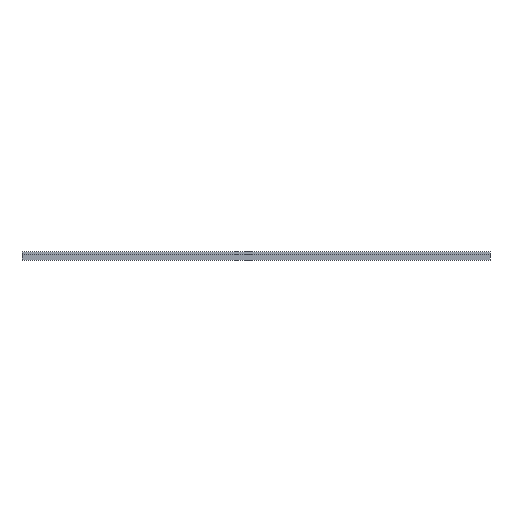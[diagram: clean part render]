
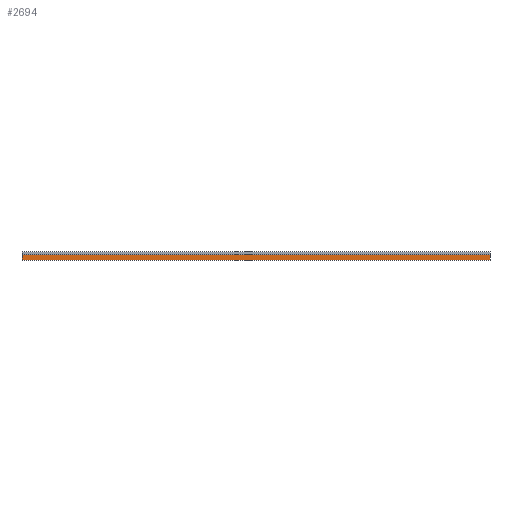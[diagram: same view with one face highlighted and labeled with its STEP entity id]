
A CAD part, front view. The second image highlights one B-rep face of the part: STEP entity #2694.
In plain terms, the highlighted planar face has unit normal (0, -1, 0).
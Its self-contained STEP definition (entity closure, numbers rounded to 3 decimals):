
#2694=ADVANCED_FACE('',(#7924),#7925,.T.);
#7924=FACE_OUTER_BOUND('',#13192,.T.);
#7925=PLANE('',#13193);
#13192=EDGE_LOOP('',(#21205,#21206,#21207,#21208));
#13193=AXIS2_PLACEMENT_3D('',#21209,#21210,#21211);
#21205=ORIENTED_EDGE('',*,*,#24324,.T.);
#21206=ORIENTED_EDGE('',*,*,#24325,.T.);
#21207=ORIENTED_EDGE('',*,*,#24326,.F.);
#21208=ORIENTED_EDGE('',*,*,#24327,.F.);
#21209=CARTESIAN_POINT('',(2500.0,0.,2.0));
#21210=DIRECTION('',(0.,-1.0,0.0));
#21211=DIRECTION('',(0.0,0.0,1.0));
#24324=EDGE_CURVE('',#29678,#29679,#29680,.T.);
#24325=EDGE_CURVE('',#29679,#29681,#29682,.T.);
#24326=EDGE_CURVE('',#29683,#29681,#29684,.T.);
#24327=EDGE_CURVE('',#29678,#29683,#29685,.T.);
#29678=VERTEX_POINT('',#33363);
#29679=VERTEX_POINT('',#33364);
#29680=LINE('',#33365,#33366);
#29681=VERTEX_POINT('',#33367);
#29682=LINE('',#33368,#33369);
#29683=VERTEX_POINT('',#33370);
#29684=LINE('',#33371,#33372);
#29685=LINE('',#33373,#33374);
#33363=CARTESIAN_POINT('',(3400.0,0.,2.0));
#33364=CARTESIAN_POINT('',(3400.0,0.,42.0));
#33365=CARTESIAN_POINT('',(3400.0,0.,2.0));
#33366=VECTOR('',#33956,1.0);
#33367=CARTESIAN_POINT('',(0.,0.,42.0));
#33368=CARTESIAN_POINT('',(2500.0,0.,42.0));
#33369=VECTOR('',#33957,1.0);
#33370=CARTESIAN_POINT('',(0.,0.,2.0));
#33371=CARTESIAN_POINT('',(0.,0.,2.0));
#33372=VECTOR('',#33958,1.0);
#33373=CARTESIAN_POINT('',(2500.0,0.,2.0));
#33374=VECTOR('',#33959,1.0);
#33956=DIRECTION('',(0.0,0.0,1.0));
#33957=DIRECTION('',(-1.0,0.,0.0));
#33958=DIRECTION('',(0.0,0.0,1.0));
#33959=DIRECTION('',(-1.0,0.,0.0));
